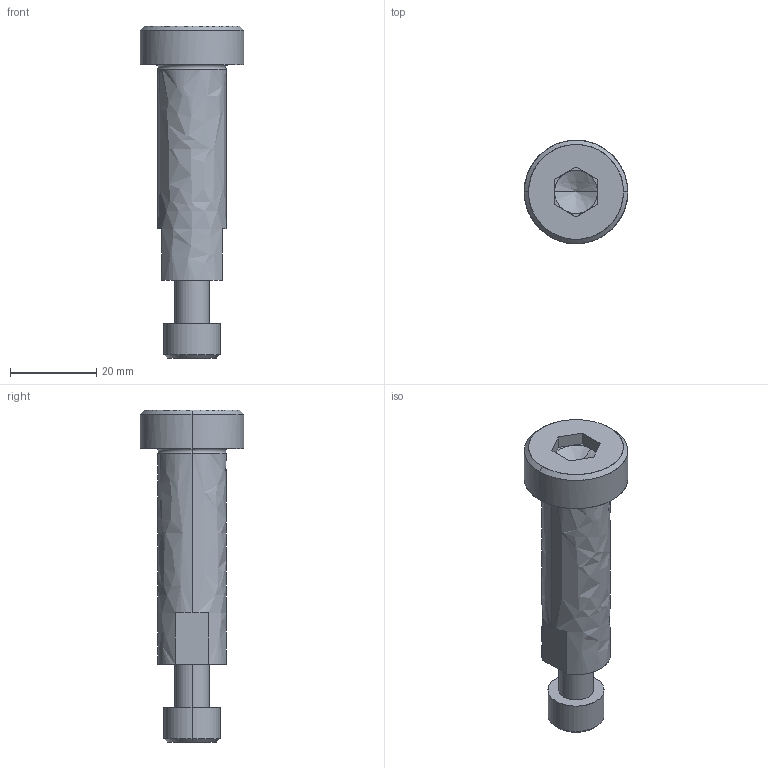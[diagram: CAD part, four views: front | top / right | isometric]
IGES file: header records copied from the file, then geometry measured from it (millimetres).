
Global section: file name: E:\UnigraphicsGraphicData\MISUMI_PRESS-PARTS\IGES\3d_sbt16-50_05069_r00.igs; native system: NX V5.0; preprocessor: UGS NX IGES V5.0; author: MISUMI; date: 20110105.162437; units: millimetre
Bounding box: 24 x 24 x 77 mm (x, y, z)
Surface area: 6110 mm2 (no closed solid volume)
Topology: 0 solids, 0 shells, 56 faces, 310 edges, 306 vertices
Faces by surface type: bspline 56
